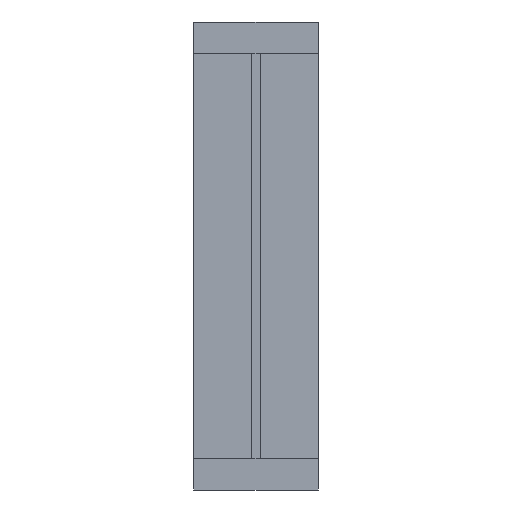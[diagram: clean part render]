
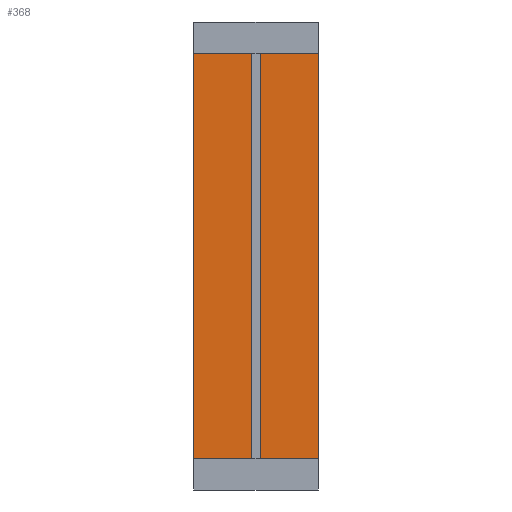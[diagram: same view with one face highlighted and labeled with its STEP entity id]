
A CAD part, front view. The second image highlights one B-rep face of the part: STEP entity #368.
In plain terms, the highlighted planar face has unit normal (0, -1, 0).
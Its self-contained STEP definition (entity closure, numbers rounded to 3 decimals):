
#2 = EDGE_CURVE ( 'NONE', #913, #1069, #1026, .T. ) ;
#35 = DIRECTION ( 'NONE',  ( 0., 0., -1. ) ) ;
#48 = VECTOR ( 'NONE', #258, 1000. ) ;
#95 = VECTOR ( 'NONE', #1102, 1000. ) ;
#98 = CARTESIAN_POINT ( 'NONE',  ( 200., 520., 100. ) ) ;
#101 = CARTESIAN_POINT ( 'NONE',  ( 190., 520., 0. ) ) ;
#110 = EDGE_CURVE ( 'NONE', #1343, #1044, #1179, .T. ) ;
#118 = DIRECTION ( 'NONE',  ( 1., 0., 0. ) ) ;
#123 = LINE ( 'NONE', #1165, #637 ) ;
#138 = FACE_OUTER_BOUND ( 'NONE', #744, .T. ) ;
#145 = VECTOR ( 'NONE', #501, 1000. ) ;
#177 = VERTEX_POINT ( 'NONE', #101 ) ;
#249 = CARTESIAN_POINT ( 'NONE',  ( 190., 520., 100. ) ) ;
#258 = DIRECTION ( 'NONE',  ( 0., 0., -1. ) ) ;
#328 = DIRECTION ( 'NONE',  ( -1., 0., 0. ) ) ;
#333 = ORIENTED_EDGE ( 'NONE', *, *, #1469, .F. ) ;
#343 = PLANE ( 'NONE',  #1240 ) ;
#356 = CARTESIAN_POINT ( 'NONE',  ( 190., 520., 100. ) ) ;
#368 = ADVANCED_FACE ( 'NONE', ( #138 ), #343, .T. ) ;
#371 = EDGE_CURVE ( 'NONE', #1180, #1107, #1199, .T. ) ;
#413 = CARTESIAN_POINT ( 'NONE',  ( -200., 520., 1400. ) ) ;
#431 = ORIENTED_EDGE ( 'NONE', *, *, #1316, .F. ) ;
#448 = DIRECTION ( 'NONE',  ( -1., 0., 0. ) ) ;
#460 = CARTESIAN_POINT ( 'NONE',  ( 200., 520., 1400. ) ) ;
#479 = DIRECTION ( 'NONE',  ( 0., 0., -1. ) ) ;
#491 = CARTESIAN_POINT ( 'NONE',  ( -190., 520., 1500. ) ) ;
#499 = CARTESIAN_POINT ( 'NONE',  ( -190., 520., 1500. ) ) ;
#501 = DIRECTION ( 'NONE',  ( 0., 0., -1. ) ) ;
#529 = LINE ( 'NONE', #413, #1383 ) ;
#534 = VECTOR ( 'NONE', #1068, 1000. ) ;
#562 = VECTOR ( 'NONE', #35, 1000. ) ;
#582 = EDGE_CURVE ( 'NONE', #1347, #1054, #1386, .T. ) ;
#592 = EDGE_CURVE ( 'NONE', #1107, #1215, #1025, .T. ) ;
#611 = ORIENTED_EDGE ( 'NONE', *, *, #1055, .F. ) ;
#629 = LINE ( 'NONE', #491, #95 ) ;
#630 = CARTESIAN_POINT ( 'NONE',  ( 190., 520., 1500. ) ) ;
#637 = VECTOR ( 'NONE', #448, 1000. ) ;
#659 = VECTOR ( 'NONE', #328, 1000. ) ;
#669 = ORIENTED_EDGE ( 'NONE', *, *, #1137, .F. ) ;
#704 = DIRECTION ( 'NONE',  ( 0., -1., 0. ) ) ;
#744 = EDGE_LOOP ( 'NONE', ( #1311, #814, #1153, #611, #1362, #1009, #669, #939, #981, #431, #333, #1081 ) ) ;
#763 = DIRECTION ( 'NONE',  ( 1., 0., 0. ) ) ;
#768 = CARTESIAN_POINT ( 'NONE',  ( -190., 520., 1400. ) ) ;
#814 = ORIENTED_EDGE ( 'NONE', *, *, #592, .F. ) ;
#821 = EDGE_CURVE ( 'NONE', #1054, #177, #912, .T. ) ;
#832 = LINE ( 'NONE', #630, #145 ) ;
#839 = CARTESIAN_POINT ( 'NONE',  ( 190., 520., 1500. ) ) ;
#850 = CARTESIAN_POINT ( 'NONE',  ( -190., 520., 0. ) ) ;
#862 = CARTESIAN_POINT ( 'NONE',  ( -200., 520., 1400. ) ) ;
#874 = DIRECTION ( 'NONE',  ( 0., 0., 1. ) ) ;
#881 = CARTESIAN_POINT ( 'NONE',  ( -190., 520., 1500. ) ) ;
#886 = LINE ( 'NONE', #881, #1340 ) ;
#912 = LINE ( 'NONE', #356, #562 ) ;
#913 = VERTEX_POINT ( 'NONE', #862 ) ;
#939 = ORIENTED_EDGE ( 'NONE', *, *, #110, .F. ) ;
#940 = CARTESIAN_POINT ( 'NONE',  ( 200., 520., 100. ) ) ;
#960 = LINE ( 'NONE', #1429, #48 ) ;
#977 = EDGE_CURVE ( 'NONE', #1303, #1343, #832, .T. ) ;
#978 = VECTOR ( 'NONE', #118, 1000. ) ;
#981 = ORIENTED_EDGE ( 'NONE', *, *, #977, .F. ) ;
#1001 = CARTESIAN_POINT ( 'NONE',  ( -200., 520., 100. ) ) ;
#1009 = ORIENTED_EDGE ( 'NONE', *, *, #582, .F. ) ;
#1025 = LINE ( 'NONE', #1001, #1377 ) ;
#1026 = LINE ( 'NONE', #768, #1216 ) ;
#1028 = CARTESIAN_POINT ( 'NONE',  ( 190., 520., 1400. ) ) ;
#1044 = VERTEX_POINT ( 'NONE', #460 ) ;
#1054 = VERTEX_POINT ( 'NONE', #249 ) ;
#1055 = EDGE_CURVE ( 'NONE', #177, #1180, #123, .T. ) ;
#1057 = CARTESIAN_POINT ( 'NONE',  ( -190., 520., 100. ) ) ;
#1063 = CARTESIAN_POINT ( 'NONE',  ( -190., 520., 100. ) ) ;
#1068 = DIRECTION ( 'NONE',  ( 0., 0., 1. ) ) ;
#1069 = VERTEX_POINT ( 'NONE', #1395 ) ;
#1081 = ORIENTED_EDGE ( 'NONE', *, *, #2, .F. ) ;
#1102 = DIRECTION ( 'NONE',  ( 1., 0., 0. ) ) ;
#1107 = VERTEX_POINT ( 'NONE', #1063 ) ;
#1137 = EDGE_CURVE ( 'NONE', #1044, #1347, #960, .T. ) ;
#1153 = ORIENTED_EDGE ( 'NONE', *, *, #371, .F. ) ;
#1165 = CARTESIAN_POINT ( 'NONE',  ( -190., 520., 0. ) ) ;
#1179 = LINE ( 'NONE', #1028, #978 ) ;
#1180 = VERTEX_POINT ( 'NONE', #850 ) ;
#1199 = LINE ( 'NONE', #1057, #534 ) ;
#1202 = EDGE_CURVE ( 'NONE', #1215, #913, #529, .T. ) ;
#1215 = VERTEX_POINT ( 'NONE', #1254 ) ;
#1216 = VECTOR ( 'NONE', #763, 1000. ) ;
#1240 = AXIS2_PLACEMENT_3D ( 'NONE', #1292, #704, #479 ) ;
#1254 = CARTESIAN_POINT ( 'NONE',  ( -200., 520., 100. ) ) ;
#1273 = VERTEX_POINT ( 'NONE', #499 ) ;
#1292 = CARTESIAN_POINT ( 'NONE',  ( 0., 520., 0. ) ) ;
#1303 = VERTEX_POINT ( 'NONE', #839 ) ;
#1311 = ORIENTED_EDGE ( 'NONE', *, *, #1202, .F. ) ;
#1316 = EDGE_CURVE ( 'NONE', #1273, #1303, #629, .T. ) ;
#1340 = VECTOR ( 'NONE', #1365, 1000. ) ;
#1343 = VERTEX_POINT ( 'NONE', #1435 ) ;
#1347 = VERTEX_POINT ( 'NONE', #940 ) ;
#1362 = ORIENTED_EDGE ( 'NONE', *, *, #821, .F. ) ;
#1365 = DIRECTION ( 'NONE',  ( 0., 0., 1. ) ) ;
#1367 = DIRECTION ( 'NONE',  ( -1., 0., 0. ) ) ;
#1377 = VECTOR ( 'NONE', #1367, 1000. ) ;
#1383 = VECTOR ( 'NONE', #874, 1000. ) ;
#1386 = LINE ( 'NONE', #98, #659 ) ;
#1395 = CARTESIAN_POINT ( 'NONE',  ( -190., 520., 1400. ) ) ;
#1429 = CARTESIAN_POINT ( 'NONE',  ( 200., 520., 1400. ) ) ;
#1435 = CARTESIAN_POINT ( 'NONE',  ( 190., 520., 1400. ) ) ;
#1469 = EDGE_CURVE ( 'NONE', #1069, #1273, #886, .T. ) ;
